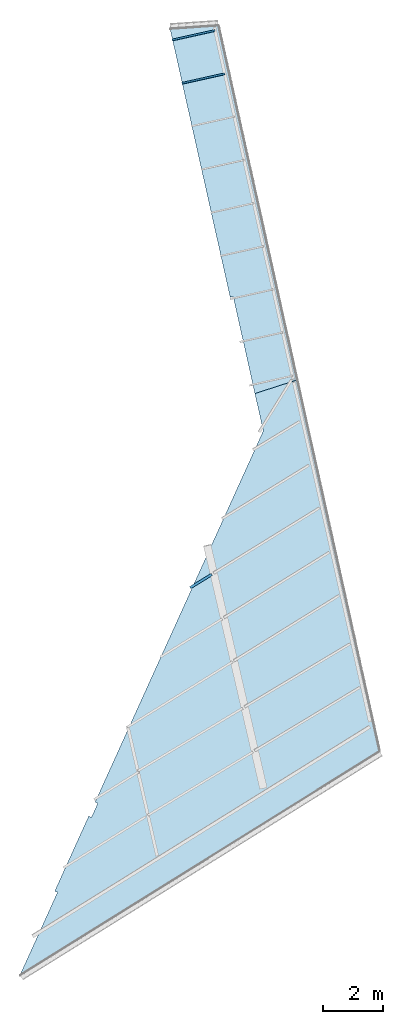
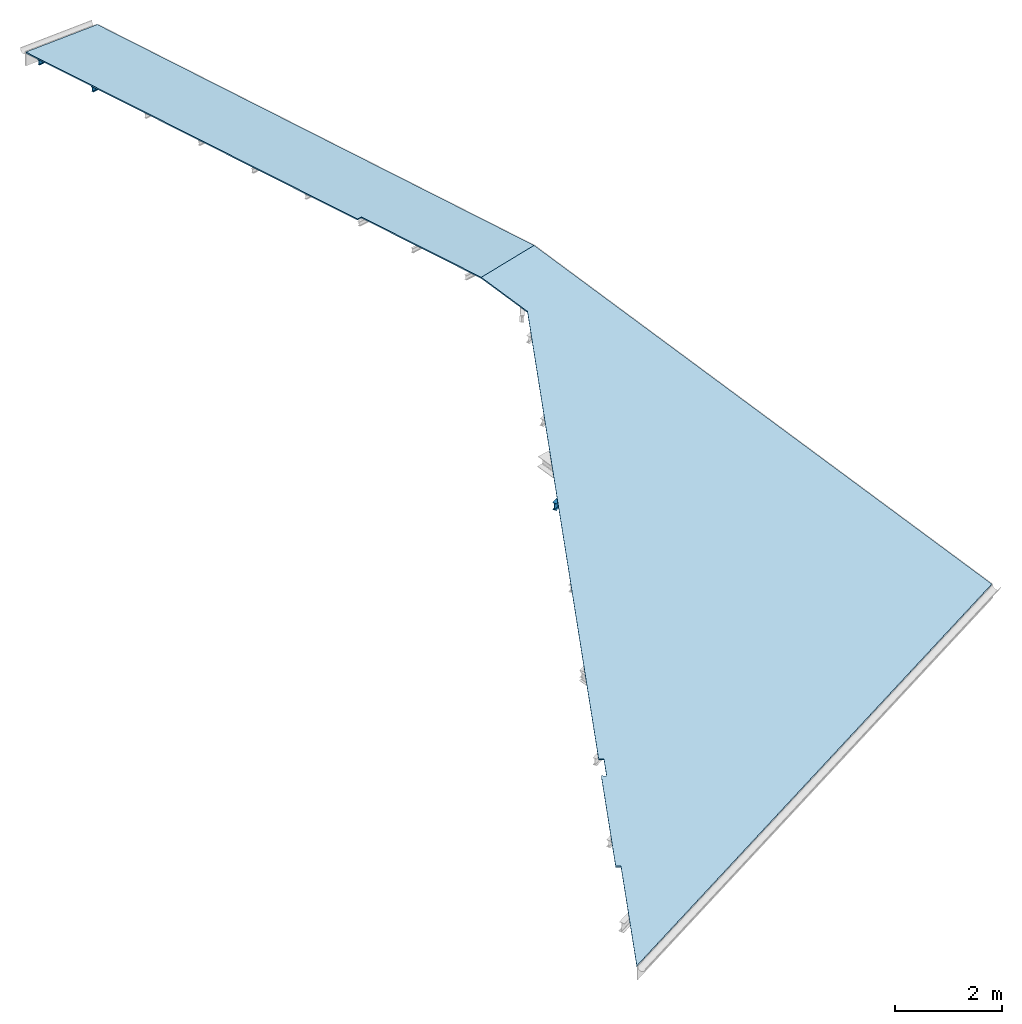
# One storey, part 3 of 5: 3 beams, 2 slabs, 1 element without a shape of its own.
"""IFC2X3 building model written with IfcOpenShell, lengths in centimetres."""

from ifc_helpers import new_model, entity, si_unit, converted_unit, derived_unit, direction, frame, frame_2d, origin, place, context, subcontext, project, spatial, polyline, circle_curve, parameter, trimmed, segment, composite_curve, i_section, outline, extrude, material, layer, layer_set, type_object, element, aggregate, save


model = new_model("IFC2X3")

# Units and contexts
model_context = context("Model", 3, precision=0.001, world=origin(), true_north=direction((6.12303176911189e-17, 1.0)))
body_context = subcontext(model_context, "Body", "Model", "MODEL_VIEW")
ifc_project = project(units=[si_unit("LENGTHUNIT", "METRE", prefix="CENTI"), si_unit("AREAUNIT", "SQUARE_METRE"), si_unit("VOLUMEUNIT", "CUBIC_METRE"), converted_unit("PLANEANGLEUNIT", "DEGREE", entity("IfcRatioMeasure", 0.0174532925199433), si_unit("PLANEANGLEUNIT", "RADIAN"), dimensions=[0, 0, 0, 0, 0, 0, 0]), si_unit("MASSUNIT", "GRAM", prefix="KILO"), derived_unit("MASSDENSITYUNIT", [(si_unit("MASSUNIT", "GRAM", prefix="KILO"), 1), (si_unit("LENGTHUNIT", "METRE"), -3)]), si_unit("TIMEUNIT", "SECOND"), si_unit("FREQUENCYUNIT", "HERTZ"), si_unit("THERMODYNAMICTEMPERATUREUNIT", "DEGREE_CELSIUS"), derived_unit("THERMALTRANSMITTANCEUNIT", [(si_unit("MASSUNIT", "GRAM", prefix="KILO"), 1), (si_unit("THERMODYNAMICTEMPERATUREUNIT", "KELVIN"), -1), (si_unit("TIMEUNIT", "SECOND"), -3)]), derived_unit("VOLUMETRICFLOWRATEUNIT", [(si_unit("LENGTHUNIT", "METRE"), 3), (si_unit("TIMEUNIT", "SECOND"), -1)]), si_unit("ELECTRICCURRENTUNIT", "AMPERE"), si_unit("ELECTRICVOLTAGEUNIT", "VOLT"), si_unit("POWERUNIT", "WATT"), si_unit("FORCEUNIT", "NEWTON", prefix="KILO"), si_unit("ILLUMINANCEUNIT", "LUX"), si_unit("LUMINOUSFLUXUNIT", "LUMEN"), si_unit("LUMINOUSINTENSITYUNIT", "CANDELA"), derived_unit("USERDEFINED", [(si_unit("MASSUNIT", "GRAM", prefix="KILO"), -1), (si_unit("LENGTHUNIT", "METRE"), -2), (si_unit("TIMEUNIT", "SECOND"), 3), (si_unit("LUMINOUSFLUXUNIT", "LUMEN"), 1)]), derived_unit("LINEARVELOCITYUNIT", [(si_unit("LENGTHUNIT", "METRE"), 1), (si_unit("TIMEUNIT", "SECOND"), -1)]), si_unit("PRESSUREUNIT", "PASCAL"), derived_unit("USERDEFINED", [(si_unit("LENGTHUNIT", "METRE"), -2), (si_unit("MASSUNIT", "GRAM", prefix="KILO"), 1), (si_unit("TIMEUNIT", "SECOND"), -2)])], contexts=[model_context])

# Site, building, storey
site_placement = place(None, frame((2611.71187422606, 13650.4058644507, 0.0), z_axis=(0.0, 0.0, 1.0), x_axis=(0.0673222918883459, -0.997731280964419, 0.0)))
site = spatial("IfcSite", under=ifc_project, at=site_placement, Name="Surface", CompositionType="ELEMENT")
building_placement = place(site_placement, origin())
building = spatial("IfcBuilding", under=site, at=building_placement, CompositionType="ELEMENT")
storey_placement = place(building_placement, frame((0.0, 0.0, 87229.0)))
storey = spatial("IfcBuildingStorey", under=building, at=storey_placement, Name="1 Toiture auvent", CompositionType="ELEMENT", Elevation=87229.0)

# Beams
ifc_material_1 = material(Name="Acier structurel - S235")
beam_type_1 = type_object("IfcBeamType", Name="IPE160", PredefinedType="BEAM")
beam_1_placement = place(storey_placement, frame((3764.52220631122, 1048.76868055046, 117.02768885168), z_axis=(-0.00359791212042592, 0.00682018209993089, 0.999970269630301), x_axis=(0.466579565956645, -0.884445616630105, 0.00771102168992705)))
element("IfcBeam", 1, at=beam_1_placement, inside=storey, type_object=beam_type_1, material=ifc_material_1, Name="IPE:IPE160", ObjectType="IPE:IPE160", context=body_context, shape_type="SweptSolid", body=[
    extrude(i_section(OverallWidth=8.19999999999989, OverallDepth=15.9999999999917, WebThickness=0.500000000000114, FlangeThickness=0.739999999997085, FilletRadius=0.900000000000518, at=frame_2d((-1.38609124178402e-11, 1.01874064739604e-12), x_axis=(0.0, 1.0))), frame((7.45285791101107, 0.0, -8.0), z_axis=(1.0, 0.0, 0.0), x_axis=(0.0, 0.0, -1.0)), (0.0, 0.0, 1.0), 84.9200000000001),
])
beam_type_2 = type_object("IfcBeamType", Name="IPE100", PredefinedType="BEAM")
beam_2_placement = place(storey_placement, frame((1978.23148916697, 1030.12505297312, 43.055674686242), z_axis=(-0.00227370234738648, 0.0149055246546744, 0.999886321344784), x_axis=(-0.150779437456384, 0.988452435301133, -0.0150779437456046)))
element("IfcBeam", 2, at=beam_2_placement, inside=storey, type_object=beam_type_2, material=ifc_material_1, Name="IPE:IPE100", ObjectType="IPE:IPE100", context=body_context, shape_type="SweptSolid", body=[
    extrude(outline(composite_curve([segment(polyline([(-2.7500000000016, -4.42999999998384), (-2.75000000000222, -5.0)]), True, "CONTINUOUS"), segment(polyline([(-2.75000000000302, -5.0), (2.74999999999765, -5.0)]), True, "CONTINUOUS"), segment(polyline([(2.74999999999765, -5.0), (2.74999999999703, -4.4300000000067)]), True, "CONTINUOUS"), segment(polyline([(2.74999999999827, -4.4299999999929), (0.904999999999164, -4.42999999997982)]), True, "CONTINUOUS"), segment(trimmed(circle_curve(frame_2d((0.90500000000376, -3.72999999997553), x_axis=(-1.0, 0.0)), 0.700000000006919), [parameter(0.0)], [parameter(89.999999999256)], True, "PARAMETER"), False, "CONTINUOUS"), segment(polyline([(0.204999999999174, -3.72999999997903), (0.205000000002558, 3.73000000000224)]), True, "CONTINUOUS"), segment(trimmed(circle_curve(frame_2d((0.905000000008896, 3.73000000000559), x_axis=(0.0, 1.0)), 0.700000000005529), [parameter(0.0)], [parameter(89.9999999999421)], True, "PARAMETER"), False, "CONTINUOUS"), segment(polyline([(0.905000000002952, 4.42999999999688), (2.75000000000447, 4.43000000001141)]), True, "CONTINUOUS"), segment(polyline([(2.75000000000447, 4.43000000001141), (2.75000000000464, 5.0)]), True, "CONTINUOUS"), segment(polyline([(2.7500000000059, 5.0), (-2.7499999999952, 5.0)]), True, "CONTINUOUS"), segment(polyline([(-2.7499999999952, 5.0), (-2.74999999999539, 4.43000000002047)]), True, "CONTINUOUS"), segment(polyline([(-2.74999999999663, 4.43000000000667), (-0.904999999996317, 4.43000000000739)]), True, "CONTINUOUS"), segment(trimmed(circle_curve(frame_2d((-0.905000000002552, 3.72999999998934), x_axis=(1.0, 0.0)), 0.700000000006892), [parameter(0.0)], [parameter(89.9999999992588)], True, "PARAMETER"), False, "CONTINUOUS"), segment(polyline([(-0.204999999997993, 3.72999999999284), (-0.205000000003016, -3.7300000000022)]), True, "CONTINUOUS"), segment(trimmed(circle_curve(frame_2d((-0.905000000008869, -3.73000000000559), x_axis=(0.0, -1.0)), 0.700000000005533), [parameter(0.0)], [parameter(89.9999999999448)], True, "PARAMETER"), False, "CONTINUOUS"), segment(polyline([(-0.905000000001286, -4.42999999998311), (-2.7500000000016, -4.42999999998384)]), True, "CONTINUOUS")], self_intersect=False)), frame((0.000532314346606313, -0.435778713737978, -4.98097349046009), z_axis=(-1.0, 0.0, 0.0), x_axis=(0.0, -0.996194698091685, 0.0871557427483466)), (0.0, 0.0, -1.0), 146.88),
])
beam_3_placement = place(storey_placement, frame((2124.68135596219, 1052.69783208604, 57.7006613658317), z_axis=(-0.00227487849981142, 0.0149092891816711, 0.99988626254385), x_axis=(-0.150818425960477, 0.988446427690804, -0.0150818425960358)))
element("IfcBeam", 3, at=beam_3_placement, inside=storey, type_object=beam_type_2, material=ifc_material_1, Name="IPE:IPE100", ObjectType="IPE:IPE100", context=body_context, shape_type="SweptSolid", body=[
    extrude(outline(composite_curve([segment(polyline([(-2.74999999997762, -4.43000000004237), (-2.7499999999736, -5.0)]), True, "CONTINUOUS"), segment(polyline([(-2.74999999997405, -5.0), (2.75000000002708, -5.0)]), True, "CONTINUOUS"), segment(polyline([(2.75000000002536, -5.0), (2.7500000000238, -4.42999999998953)]), True, "CONTINUOUS"), segment(polyline([(2.75000000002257, -4.43000000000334), (0.905000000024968, -4.42999999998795)]), True, "CONTINUOUS"), segment(trimmed(circle_curve(frame_2d((0.905000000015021, -3.72999999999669), x_axis=(-1.0, 0.0)), 0.699999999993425), [parameter(0.0)], [parameter(90.0000000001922)], True, "PARAMETER"), False, "CONTINUOUS"), segment(polyline([(0.205000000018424, -3.73000000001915), (0.20499999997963, 3.73000000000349)]), True, "CONTINUOUS"), segment(trimmed(circle_curve(frame_2d((0.904999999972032, 3.7299999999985), x_axis=(0.0, 1.0)), 0.699999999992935), [parameter(0.0)], [parameter(90.0000000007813)], True, "PARAMETER"), False, "CONTINUOUS"), segment(polyline([(0.904999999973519, 4.42999999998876), (2.74999999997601, 4.4300000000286)]), True, "CONTINUOUS"), segment(polyline([(2.74999999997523, 4.43000000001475), (2.74999999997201, 5.0)]), True, "CONTINUOUS"), segment(polyline([(2.74999999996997, 5.0), (-2.75000000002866, 5.0)]), True, "CONTINUOUS"), segment(polyline([(-2.7500000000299, 5.0), (-2.75000000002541, 4.42999999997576)]), True, "CONTINUOUS"), segment(polyline([(-2.75000000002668, 4.42999999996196), (-0.905000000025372, 4.42999999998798)]), True, "CONTINUOUS"), segment(trimmed(circle_curve(frame_2d((-0.905000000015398, 3.72999999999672), x_axis=(1.0, 0.0)), 0.699999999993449), [parameter(0.0)], [parameter(90.0000000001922)], True, "PARAMETER"), False, "CONTINUOUS"), segment(polyline([(-0.205000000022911, 3.72999999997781), (-0.204999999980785, -3.7300000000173)]), True, "CONTINUOUS"), segment(trimmed(circle_curve(frame_2d((-0.904999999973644, -3.73000000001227), x_axis=(0.0, -1.0)), 0.699999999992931), [parameter(0.0)], [parameter(90.0000000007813)], True, "PARAMETER"), False, "CONTINUOUS"), segment(polyline([(-0.904999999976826, -4.4300000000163), (-2.74999999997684, -4.43000000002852)]), True, "CONTINUOUS")], self_intersect=False)), frame((0.000765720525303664, -0.4357787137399, -4.98097349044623), z_axis=(-1.0, 0.0, 0.0), x_axis=(0.0, -0.996194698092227, 0.0871557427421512)), (0.0, 0.0, -1.0), 146.880000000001),
])

# Roof, slabs
roof_placement = place(storey_placement, frame((1941.67474230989, 312.9390241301, 39.3999999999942)))
roof = element("IfcRoof", 4, at=roof_placement, inside=storey, Name="Toit de base:Couverture bac acier simple peau", ObjectType="Toit de base:Couverture bac acier simple peau", ShapeType="NOTDEFINED")
ifc_material_2 = material(Name="Bac acier auvent")
ifc_layer = layer(ifc_material_2, 2.9)
ifc_layer_set = layer_set([ifc_layer], Name="Toit de base:Couverture bac acier simple peau")
slab_1_placement = place(roof_placement, origin())
slab_1 = element("IfcSlab", 5, at=slab_1_placement, material=ifc_layer_set, Name="Toit de base:Couverture bac acier simple peau", ObjectType="Toit de base:Couverture bac acier simple peau", PredefinedType="ROOF", context=body_context, shape_type="SweptSolid", body=[
    extrude(outline(polyline([(-948.122958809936, 533.473798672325), (-912.184018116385, 390.203053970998), (-785.343816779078, 410.223395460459), (418.536489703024, -229.554706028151), (423.286144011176, -220.715423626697), (468.662484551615, -244.829771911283), (463.912830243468, -253.669054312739), (706.95172226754, -382.827210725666), (711.701376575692, -373.98792832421), (979.837135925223, -516.483312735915), (312.031950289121, 730.03147295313), (-948.122958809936, 533.473798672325)])), frame((2142.09989014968, 519.955589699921, 61.6719575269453), z_axis=(0.0878066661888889, 0.046807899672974, 0.995037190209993), x_axis=(0.996137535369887, -0.00412598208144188, -0.0877096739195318)), (-0.0877096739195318, -0.0469893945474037, 0.995037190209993), 2.91446393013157),
])
slab_2_placement = place(roof_placement, origin())
slab_2 = element("IfcSlab", 6, at=slab_2_placement, material=ifc_layer_set, Name="Toit de base:Couverture bac acier simple peau", ObjectType="Toit de base:Couverture bac acier simple peau", PredefinedType="ROOF", context=body_context, shape_type="SweptSolid", body=[
    extrude(outline(polyline([(-619.795502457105, -171.906762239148), (291.798074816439, -32.0964277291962), (290.218760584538, -21.9009129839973), (619.795502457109, 28.6459926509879), (583.816819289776, 171.906762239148), (-619.795502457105, -10.4563332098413), (-619.795502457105, -171.906762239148)])), frame((616.719575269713, 884.845283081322, 61.6719575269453), z_axis=(-0.0995037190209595, 0.0, 0.995037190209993), x_axis=(0.995037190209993, 0.0, 0.0995037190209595)), (0.0995037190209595, 0.0, 0.995037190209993), 2.91446393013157),
])
aggregate(roof, [slab_1, slab_2])

save(model, "model.ifc")
